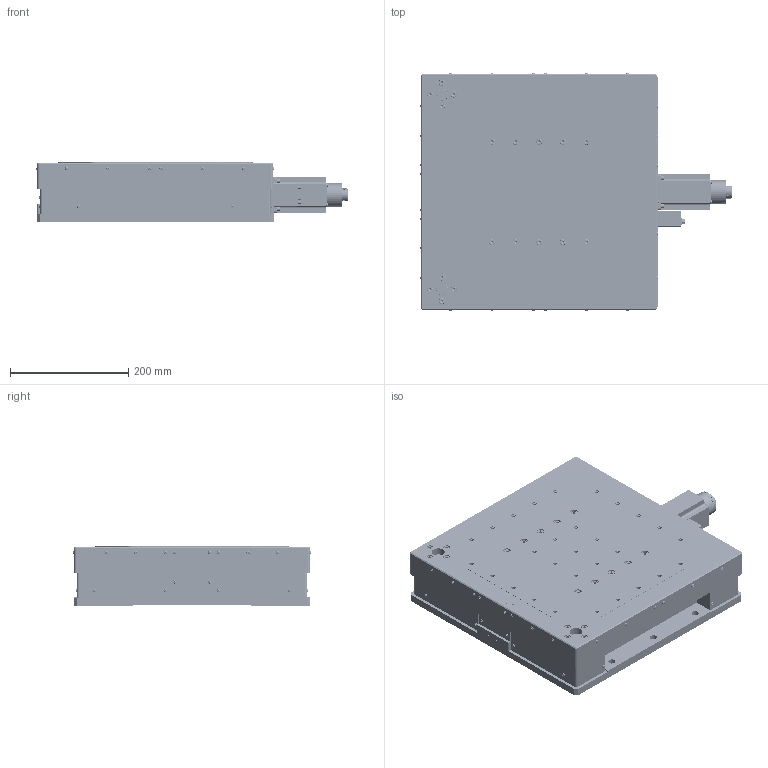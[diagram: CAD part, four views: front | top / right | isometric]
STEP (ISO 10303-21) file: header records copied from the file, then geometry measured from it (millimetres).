
FILE_DESCRIPTION(/* description */ (''),/* implementation_level */ '2;1');
FILE_NAME(/* name */ 'U:\KONSTRUKTORIAI\DOKUMENTACIJA\8\8MVT400-20\STEP\8MVT400-20 SB INT.stp',/* time_stamp */ '2015-04-23T07:06:42+03:00',/* author */ ('dsgn32'),/* organization */ (''),/* preprocessor_version */ 'ST-DEVELOPER v15.2',/* originating_system */ 'Autodesk Inventor 2014',/* authorisation */ '');
FILE_SCHEMA (('CONFIG_CONTROL_DESIGN'));
Products named in the file (2): Part2; Assembly1
Bounding box: 526.9 x 402.3 x 100.12 mm (x, y, z)
Volume: 5375086.7 mm3; surface area: 1146690.3 mm2
Topology: 3 solids, 155 shells, 3626 faces, 8546 edges, 5582 vertices
Faces by surface type: plane 1953, cylinder 960, cone 357, torus 206, bspline 125, sphere 25
Full cylindrical faces by diameter (mm): 0.395 x85, 1 x15, 1.4 x6, 2.013 x2, 2.459 x75, 2.5 x4, 2.7 x2, 3 x93, 3.1 x6, 3.2 x6, 3.242 x18, 3.3 x4, 3.302 x2, 3.4 x6, 3.5 x30, 4 x8, 4.5 x8, 4.8 x6, 4.917 x49, 5.5 x30, 5.7 x49, 6 x38, 6.35 x2, 6.5 x7, 6.6 x29, 7 x8, 8 x31, 10 x35, 11 x33, 12 x6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
Entity records: 94694 total; most frequent: CARTESIAN_POINT 21116, DIRECTION 15101, ORIENTED_EDGE 13204, EDGE_CURVE 6598, AXIS2_PLACEMENT_3D 5978, EDGE_LOOP 5608, VERTEX_POINT 4932, ADVANCED_FACE 3626
